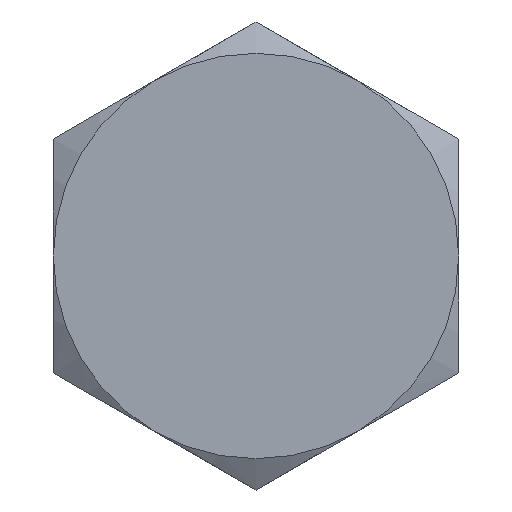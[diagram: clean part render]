
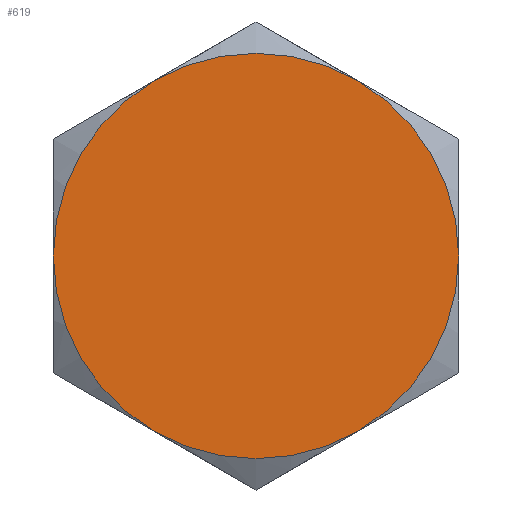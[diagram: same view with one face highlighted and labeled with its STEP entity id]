
A CAD part, left-side view. The second image highlights one B-rep face of the part: STEP entity #619.
In plain terms, the highlighted planar face has unit normal (-1, 0, 0).
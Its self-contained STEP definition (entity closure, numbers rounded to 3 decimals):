
#169=CARTESIAN_POINT('',(0.,0.,0.));
#170=DIRECTION('',(1.,0.,0.));
#171=DIRECTION('',(0.,1.,0.));
#172=AXIS2_PLACEMENT_3D('',#169,#170,#171);
#174=CARTESIAN_POINT('',(0.,0.,0.));
#175=DIRECTION('',(1.,0.,0.));
#176=DIRECTION('',(0.,0.5,0.866));
#177=AXIS2_PLACEMENT_3D('',#174,#175,#176);
#179=CARTESIAN_POINT('',(0.,0.,0.));
#180=DIRECTION('',(1.,0.,0.));
#181=DIRECTION('',(0.,-0.5,0.866));
#182=AXIS2_PLACEMENT_3D('',#179,#180,#181);
#184=CARTESIAN_POINT('',(0.,0.,0.));
#185=DIRECTION('',(1.,0.,0.));
#186=DIRECTION('',(0.,-1.,0.));
#187=AXIS2_PLACEMENT_3D('',#184,#185,#186);
#189=CARTESIAN_POINT('',(0.,0.,0.));
#190=DIRECTION('',(1.,0.,0.));
#191=DIRECTION('',(0.,-0.5,-0.866));
#192=AXIS2_PLACEMENT_3D('',#189,#190,#191);
#194=CARTESIAN_POINT('',(0.,0.,0.));
#195=DIRECTION('',(1.,0.,0.));
#196=DIRECTION('',(0.,0.5,-0.866));
#197=AXIS2_PLACEMENT_3D('',#194,#195,#196);
#323=CARTESIAN_POINT('',(0.,2.,0.));
#324=CARTESIAN_POINT('',(0.,1.,1.732));
#325=VERTEX_POINT('',#323);
#326=VERTEX_POINT('',#324);
#327=CARTESIAN_POINT('',(0.,-1.,1.732));
#328=VERTEX_POINT('',#327);
#329=CARTESIAN_POINT('',(0.,-2.,0.));
#330=VERTEX_POINT('',#329);
#331=CARTESIAN_POINT('',(0.,-1.,-1.732));
#332=VERTEX_POINT('',#331);
#333=CARTESIAN_POINT('',(0.,1.,-1.732));
#334=VERTEX_POINT('',#333);
#603=CARTESIAN_POINT('',(0.,0.,0.));
#604=DIRECTION('',(1.,0.,0.));
#605=DIRECTION('',(0.,-1.,0.));
#606=AXIS2_PLACEMENT_3D('',#603,#604,#605);
#607=PLANE('',#606);
#608=ORIENTED_EDGE('',*,*,#568,.T.);
#609=ORIENTED_EDGE('',*,*,#581,.T.);
#610=ORIENTED_EDGE('',*,*,#594,.T.);
#612=ORIENTED_EDGE('',*,*,#611,.T.);
#614=ORIENTED_EDGE('',*,*,#613,.T.);
#616=ORIENTED_EDGE('',*,*,#615,.T.);
#617=EDGE_LOOP('',(#608,#609,#610,#612,#614,#616));
#618=FACE_OUTER_BOUND('',#617,.F.);
#619=ADVANCED_FACE('',(#618),#607,.F.);
#173=CIRCLE('',#172,2.);
#178=CIRCLE('',#177,2.);
#183=CIRCLE('',#182,2.);
#188=CIRCLE('',#187,2.);
#193=CIRCLE('',#192,2.);
#198=CIRCLE('',#197,2.);
#568=EDGE_CURVE('',#325,#326,#173,.T.);
#581=EDGE_CURVE('',#326,#328,#178,.T.);
#594=EDGE_CURVE('',#328,#330,#183,.T.);
#611=EDGE_CURVE('',#330,#332,#188,.T.);
#613=EDGE_CURVE('',#332,#334,#193,.T.);
#615=EDGE_CURVE('',#334,#325,#198,.T.);
